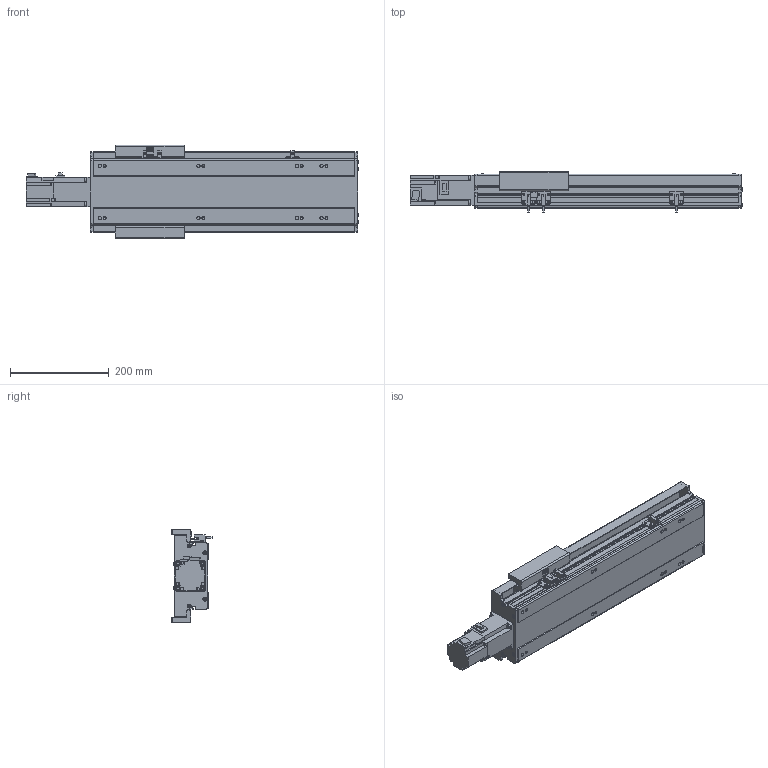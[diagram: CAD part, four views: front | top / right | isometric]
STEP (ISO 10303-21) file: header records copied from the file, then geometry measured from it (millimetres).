
FILE_DESCRIPTION(/* description */ ('STEP AP214'),/* implementation_level */ '2;1');
FILE_NAME(/* name */ 'PSM140-L10-S300-BC-T40-C1-N(0)',/* time_stamp */ '2022-06-13T03:18:39+02:00',/* author */ ('License CC BY-ND 4.0'),/* organization */ ('CADENAS'),/* preprocessor_version */ 'ST-DEVELOPER v18.102',/* originating_system */ 'PARTsolutions',/* authorisation */ ' ');
FILE_SCHEMA (('AUTOMOTIVE_DESIGN {1 0 10303 214 3 1 1}'));
Length unit declared in the file: millimetre
Products named in the file (7): PSM140-L10-S300-BC-T40-C1-N(0); PSM-Sensor; PSM140-S300-542.5; T40-p1; PSM140_body3; PSM140-S300_body1; PSM140-L10-S300-BC-T40-C1-N(0)_dummy
Assembly tree (10 placements, depth 2):
  PSM140-L10-S300-BC-T40-C1-N(0)
    PSM-Sensor  x3
    PSM140-S300-542.5  x3
    T40-p1
    PSM140_body3
    PSM140-S300_body1
    PSM140-L10-S300-BC-T40-C1-N(0)_dummy
Bounding box: 673.7 x 81.3 x 190 mm (x, y, z)
Volume: 3014931.8 mm3; surface area: 635646.3 mm2
Topology: 9 solids, 9 shells, 928 faces, 2449 edges, 1592 vertices
Faces by surface type: plane 620, cylinder 242, cone 52, torus 14
Full cylindrical faces by diameter (mm): 2.8 x3, 4.5 x12, 4.6 x3, 4.917 x16, 5.5 x7, 5.7 x6, 6 x2, 7 x16, 8 x8, 8.5 x4, 10.5 x8, 14 x1, 50 x1
Entity records: 23583 total; most frequent: CARTESIAN_POINT 4180, DIRECTION 3993, ORIENTED_EDGE 3770, EDGE_CURVE 1885, LINE 1347, VECTOR 1347, AXIS2_PLACEMENT_3D 1323, VERTEX_POINT 1314
